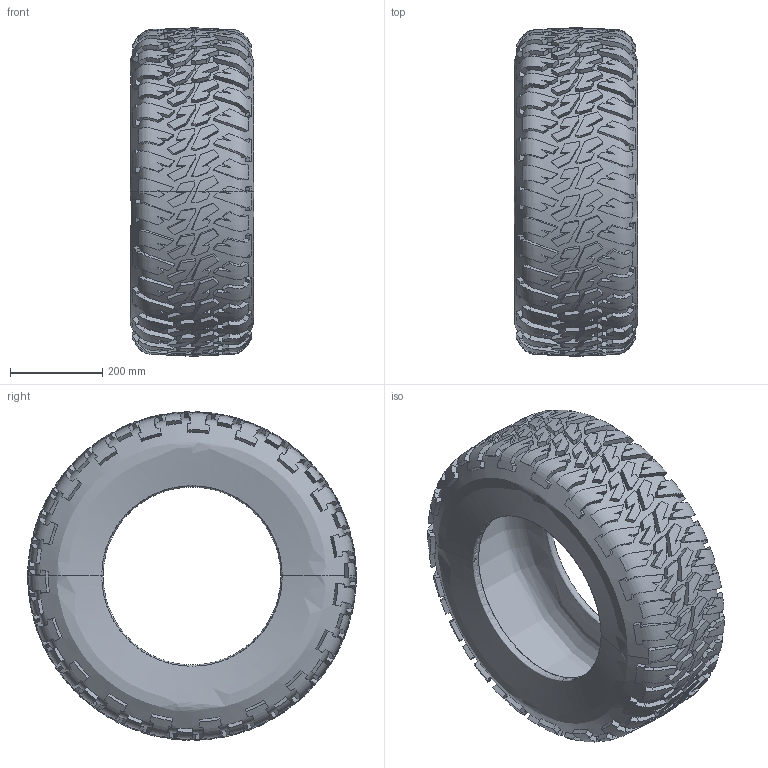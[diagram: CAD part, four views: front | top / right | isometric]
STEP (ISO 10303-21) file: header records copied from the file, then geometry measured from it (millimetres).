
FILE_DESCRIPTION (( 'STEP AP203' ), '1' );
FILE_NAME ('OffRoad 15 inch.STEP', '2011-06-01T13:08:57', ( 'www.PHILka.RU' ), ( 'WareZ Provider ' ), 'SwSTEP 2.0', 'SolidWorks 2009', '' );
FILE_SCHEMA (( 'CONFIG_CONTROL_DESIGN' ));
Products named in the file (1): OffRoad 15 inch
Bounding box: 268.32 x 711.59 x 711.47 mm (x, y, z)
Volume: 20012771.7 mm3; surface area: 2228882.1 mm2
Topology: 1 solids, 1 shells, 1657 faces, 4535 edges, 3022 vertices
Faces by surface type: bspline 1447, cone 172, plane 38
Entity records: 200744 total; most frequent: CARTESIAN_POINT 170980, ORIENTED_EDGE 9070, EDGE_CURVE 4535, B_SPLINE_CURVE_WITH_KNOTS 4140, VERTEX_POINT 3022, EDGE_LOOP 1801, FACE_OUTER_BOUND 1657, ADVANCED_FACE 1657
